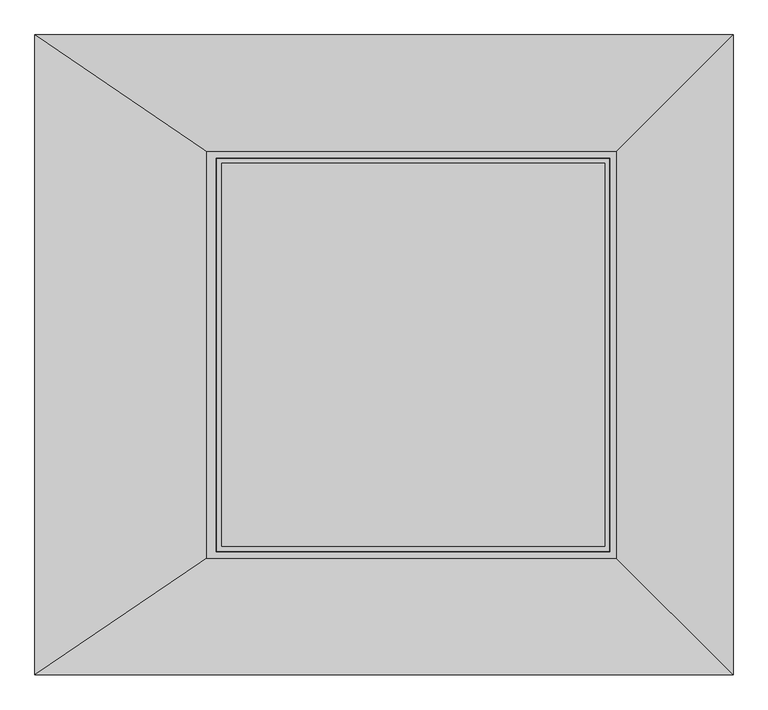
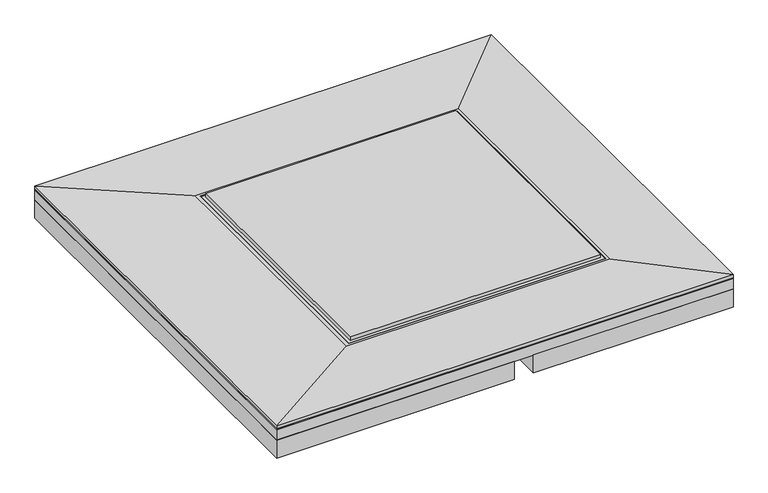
"""IFC4 building model written with IfcOpenShell, lengths in millimetres: sanitary terminal geometry, NLRS_PF_52_UN_Showerboard SQUARE_in_uitloop_Easydrain : Square onderuitloop 50mm, zij-ingang 40mm."""

from ifc_helpers import new_model, si_unit, frame, origin, place, context, project, spatial, polyline, circle_curve, outline, extrude, source, transform, mapped, element, save
from ifc_brep_helpers import plane_surface, revolved_surface, advanced_brep


def sanitary_terminal_38fbd002(model_context):
    return source(origin(), model_context, "Body", "SolidModel", [
        extrude(outline(polyline([(-650.0, -550.0), (-650.0, 550.0), (-25.0, 550.0), (-25.0, -550.0), (-650.0, -550.0)])), frame((0.0, 0.0, -90.0), z_axis=(0.0, 0.0, 1.0), x_axis=(1.0, 0.0, 0.0)), (0.0, 0.0, 1.0), 50.0),
        extrude(outline(polyline([(550.0, 550.0), (550.0, -550.0), (25.0, -550.0), (25.0, 550.0), (550.0, 550.0)])), frame((0.0, 0.0, -90.0), z_axis=(0.0, 0.0, 1.0), x_axis=(1.0, 0.0, 0.0)), (0.0, 0.0, 1.0), 50.0),
        extrude(outline(polyline([(329.0, 329.0), (329.0, -329.0), (-329.0, -329.0), (-329.0, 329.0), (329.0, 329.0)])), frame((0.0, 0.0, -9.0), z_axis=(0.0, 0.0, 1.0), x_axis=(1.0, 0.0, 0.0)), (0.0, 0.0, 1.0), 9.0),
        extrude(outline(polyline([(550.0, 550.0), (550.0, -550.0), (-650.0, -550.0), (-650.0, 550.0), (550.0, 550.0)]), holes=[polyline([(338.0, -338.0), (338.0, 338.0), (-338.0, 338.0), (-338.0, -338.0), (338.0, -338.0)])]), frame((0.0, 0.0, -11.0), z_axis=(0.0, 0.0, 1.0), x_axis=(1.0, 0.0, 0.0)), (0.0, 0.0, 1.0), 2.0),
        advanced_brep(
        [(550.0, 550.0, -40.0), (550.0, -550.0, -40.0), (-650.0, -550.0, -40.0), (-650.0, 550.0, -40.0), (-51.0, 0.0, -40.0), (51.0, 0.0, -40.0), (-650.0, 550.0, 0.0), (550.0, 550.0, 0.0), (-650.0, -550.0, 0.0), (550.0, -550.0, 0.0), (51.0, 0.0, -11.0), (-51.0, 0.0, -11.0), (338.0, 338.0, -11.0), (-338.0, 338.0, -11.0), (-338.0, -338.0, -11.0), (338.0, -338.0, -11.0), (338.0, 338.0, -9.0), (338.0, -338.0, -9.0), (-338.0, -338.0, -9.0), (-338.0, 338.0, -9.0)],
        [
            (0, 1),
            (1, 2),
            (2, 3),
            (3, 0),
            (4, 5, circle_curve(frame((0.0, 0.0, -40.0), z_axis=(0.0, 0.0, 1.0), x_axis=(1.0, 0.0, 0.0)), 51.0)),
            (5, 4, circle_curve(frame((0.0, 0.0, -40.0), z_axis=(0.0, 0.0, 1.0), x_axis=(1.0, 0.0, 0.0)), 51.0)),
            (3, 6),
            (6, 7),
            (7, 0),
            (2, 8),
            (8, 6),
            (1, 9),
            (9, 8),
            (7, 9),
            (5, 10),
            (10, 11, circle_curve(frame((0.0, 0.0, -11.0), z_axis=(0.0, 0.0, 1.0), x_axis=(1.0, 0.0, 0.0)), 51.0)),
            (11, 4),
            (11, 10, circle_curve(frame((0.0, 0.0, -11.0), z_axis=(0.0, 0.0, 1.0), x_axis=(1.0, 0.0, 0.0)), 51.0)),
            (12, 13),
            (13, 14),
            (14, 15),
            (15, 12),
            (7, 16),
            (16, 17),
            (17, 9),
            (17, 18),
            (18, 8),
            (18, 19),
            (19, 6),
            (19, 16),
            (15, 17),
            (16, 12),
            (14, 18),
            (13, 19),
        ],
        [
            plane_surface(frame((-650.0, 550.0, -40.0), z_axis=(0.0, 0.0, -1.0), x_axis=(1.0, 0.0, 0.0))),
            plane_surface(frame((550.0, 550.0, 0.0), z_axis=(0.0, 1.0, 0.0), x_axis=(0.0, 0.0, -1.0))),
            plane_surface(frame((-650.0, 550.0, 0.0), z_axis=(-1.0, 0.0, 0.0), x_axis=(0.0, 0.0, -1.0))),
            plane_surface(frame((-650.0, -550.0, 0.0), z_axis=(0.0, -1.0, 0.0), x_axis=(0.0, 0.0, -1.0))),
            plane_surface(frame((550.0, -550.0, 0.0), z_axis=(1.0, 0.0, 0.0), x_axis=(0.0, 0.0, -1.0))),
            revolved_surface(polyline([(51.0, 0.0, -40.0), (51.0, 0.0, -11.0)]), (0.0, 0.0, 0.0), (0.0, 0.0, -1.0)),
            plane_surface(frame((338.0, 91.0, -11.0), z_axis=(0.0, 0.0, 1.0), x_axis=(0.0, -1.0, 0.0))),
            plane_surface(frame((550.0, 0.0, 0.0), z_axis=(-0.04241462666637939, 0.0, 0.9991000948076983), x_axis=(0.0, -1.0, 0.0))),
            plane_surface(frame((-50.0, -550.0, 0.0), z_axis=(0.0, 0.0424146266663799, 0.9991000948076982), x_axis=(-1.0, 0.0, 0.0))),
            plane_surface(frame((-650.0, 0.0, 0.0), z_axis=(0.02883415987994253, 0.0, 0.9995842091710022), x_axis=(0.0, 1.0, 0.0))),
            plane_surface(frame((-50.0, 550.0, 0.0), z_axis=(0.0, -0.04241462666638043, 0.9991000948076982), x_axis=(1.0, 0.0, 0.0))),
            plane_surface(frame((338.0, 338.0, -11.0), z_axis=(-1.0, 0.0, 0.0), x_axis=(0.0, 0.0, 1.0))),
            plane_surface(frame((338.0, -338.0, -11.0), z_axis=(0.0, 1.0, 0.0), x_axis=(0.0, 0.0, 1.0))),
            plane_surface(frame((-338.0, -338.0, -11.0), z_axis=(1.0, 0.0, 0.0), x_axis=(0.0, 0.0, 1.0))),
            plane_surface(frame((-338.0, 338.0, -11.0), z_axis=(0.0, -1.0, 0.0), x_axis=(0.0, 0.0, 1.0))),
        ],
        [
            (0, [[1, 2, 3, 4], [5, 6]]),
            (1, [[-4, 7, 8, 9]]),
            (2, [[-3, 10, 11, -7]]),
            (3, [[-2, 12, 13, -10]]),
            (4, [[-1, -9, 14, -12]]),
            (5, [[-6, 15, 16, 17]]),
            (5, [[-5, -17, 18, -15]]),
            (6, [[19, 20, 21, 22], [-16, -18]]),
            (7, [[23, 24, 25, -14]]),
            (8, [[-25, 26, 27, -13]]),
            (9, [[-27, 28, 29, -11]]),
            (10, [[-23, -8, -29, 30]]),
            (11, [[-22, 31, -24, 32]]),
            (12, [[-21, 33, -26, -31]]),
            (13, [[-20, 34, -28, -33]]),
            (14, [[-19, -32, -30, -34]]),
        ],
    ),
    ])


if __name__ == "__main__":
    model = new_model("IFC4")
    model_context = context("Model", 3, world=origin())
    ifc_project = project(units=[si_unit("LENGTHUNIT", "METRE", prefix="MILLI")], contexts=[model_context])
    site = spatial("IfcSite", under=ifc_project)
    building = spatial("IfcBuilding", under=site)
    placement = place(None, origin())
    sanitary_terminal_shape = sanitary_terminal_38fbd002(model_context)
    element("IfcSanitaryTerminal", 1, ObjectType="NLRS_PF_52_UN_Showerboard SQUARE_in_uitloop_Easydrain : Square onderuitloop 50mm, zij-ingang 40mm", at=placement, inside=building, context=model_context, shape_type="MappedRepresentation", body=[
        mapped(sanitary_terminal_shape, transform((0.0, 0.0, 0.0), x_axis=(1.0, 0.0, 0.0), y_axis=(0.0, 1.0, 0.0), z_axis=(0.0, 0.0, 1.0))),
    ])
    save(model, "model.ifc")
